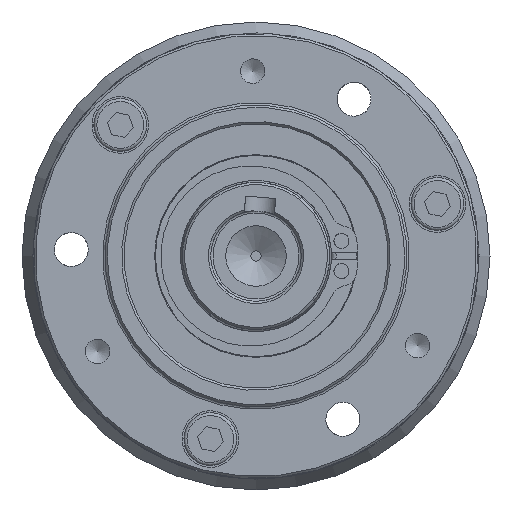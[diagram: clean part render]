
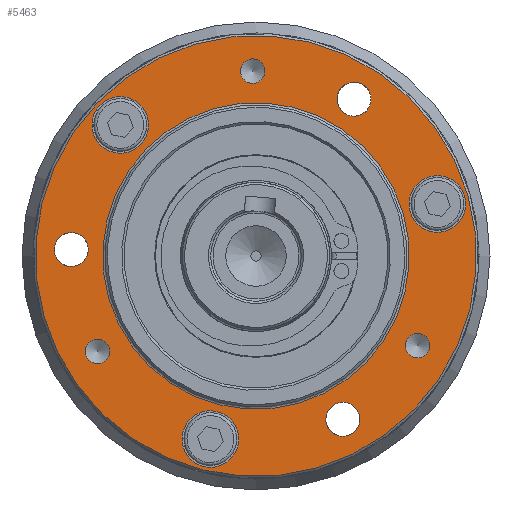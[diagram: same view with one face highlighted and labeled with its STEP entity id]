
A CAD part, left-side view. The second image highlights one B-rep face of the part: STEP entity #5463.
In plain terms, the highlighted planar face has unit normal (-1, 0, 0).
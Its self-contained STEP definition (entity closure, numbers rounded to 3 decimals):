
#942=PLANE('',#5905);
#1108=FACE_BOUND('',#1792,.T.);
#1109=FACE_BOUND('',#1793,.T.);
#1110=FACE_BOUND('',#1794,.T.);
#1111=FACE_BOUND('',#1795,.T.);
#1112=FACE_BOUND('',#1796,.T.);
#1113=FACE_BOUND('',#1797,.T.);
#1114=FACE_BOUND('',#1798,.T.);
#1115=FACE_BOUND('',#1799,.T.);
#1116=FACE_BOUND('',#1800,.T.);
#1117=FACE_BOUND('',#1801,.T.);
#1372=FACE_OUTER_BOUND('',#1791,.T.);
#1791=EDGE_LOOP('',(#4202));
#1792=EDGE_LOOP('',(#4203));
#1793=EDGE_LOOP('',(#4204));
#1794=EDGE_LOOP('',(#4205));
#1795=EDGE_LOOP('',(#4206));
#1796=EDGE_LOOP('',(#4207));
#1797=EDGE_LOOP('',(#4208));
#1798=EDGE_LOOP('',(#4209));
#1799=EDGE_LOOP('',(#4210));
#1800=EDGE_LOOP('',(#4211));
#1801=EDGE_LOOP('',(#4212));
#2062=CIRCLE('',#5703,2.25);
#2064=CIRCLE('',#5706,2.25);
#2066=CIRCLE('',#5709,2.25);
#2141=CIRCLE('',#5876,29.2);
#2142=CIRCLE('',#5878,1.621);
#2144=CIRCLE('',#5882,1.621);
#2146=CIRCLE('',#5886,1.621);
#2148=CIRCLE('',#5890,3.75);
#2151=CIRCLE('',#5895,3.75);
#2153=CIRCLE('',#5899,3.75);
#2157=CIRCLE('',#5906,20.3);
#2376=VERTEX_POINT('',#7888);
#2378=VERTEX_POINT('',#7893);
#2380=VERTEX_POINT('',#7898);
#2590=VERTEX_POINT('',#9138);
#2591=VERTEX_POINT('',#9141);
#2593=VERTEX_POINT('',#9147);
#2595=VERTEX_POINT('',#9153);
#2597=VERTEX_POINT('',#9159);
#2600=VERTEX_POINT('',#9167);
#2602=VERTEX_POINT('',#9173);
#2606=VERTEX_POINT('',#9184);
#2876=EDGE_CURVE('',#2376,#2376,#2062,.T.);
#2878=EDGE_CURVE('',#2378,#2378,#2064,.T.);
#2880=EDGE_CURVE('',#2380,#2380,#2066,.T.);
#3177=EDGE_CURVE('',#2590,#2590,#2141,.T.);
#3178=EDGE_CURVE('',#2591,#2591,#2142,.T.);
#3180=EDGE_CURVE('',#2593,#2593,#2144,.T.);
#3182=EDGE_CURVE('',#2595,#2595,#2146,.T.);
#3184=EDGE_CURVE('',#2597,#2597,#2148,.T.);
#3187=EDGE_CURVE('',#2600,#2600,#2151,.T.);
#3189=EDGE_CURVE('',#2602,#2602,#2153,.T.);
#3193=EDGE_CURVE('',#2606,#2606,#2157,.T.);
#4202=ORIENTED_EDGE('',*,*,#3177,.F.);
#4203=ORIENTED_EDGE('',*,*,#2880,.T.);
#4204=ORIENTED_EDGE('',*,*,#2878,.T.);
#4205=ORIENTED_EDGE('',*,*,#2876,.T.);
#4206=ORIENTED_EDGE('',*,*,#3178,.T.);
#4207=ORIENTED_EDGE('',*,*,#3180,.T.);
#4208=ORIENTED_EDGE('',*,*,#3182,.T.);
#4209=ORIENTED_EDGE('',*,*,#3184,.T.);
#4210=ORIENTED_EDGE('',*,*,#3187,.T.);
#4211=ORIENTED_EDGE('',*,*,#3189,.T.);
#4212=ORIENTED_EDGE('',*,*,#3193,.F.);
#5463=ADVANCED_FACE('',(#1372,#1108,#1109,#1110,#1111,#1112,#1113,#1114,
#1115,#1116,#1117),#942,.T.);
#5703=AXIS2_PLACEMENT_3D('',#7889,#6405,#6406);
#5706=AXIS2_PLACEMENT_3D('',#7894,#6411,#6412);
#5709=AXIS2_PLACEMENT_3D('',#7899,#6417,#6418);
#5876=AXIS2_PLACEMENT_3D('',#9139,#6901,#6902);
#5878=AXIS2_PLACEMENT_3D('',#9142,#6905,#6906);
#5882=AXIS2_PLACEMENT_3D('',#9148,#6913,#6914);
#5886=AXIS2_PLACEMENT_3D('',#9154,#6921,#6922);
#5890=AXIS2_PLACEMENT_3D('',#9160,#6929,#6930);
#5895=AXIS2_PLACEMENT_3D('',#9168,#6939,#6940);
#5899=AXIS2_PLACEMENT_3D('',#9174,#6947,#6948);
#5905=AXIS2_PLACEMENT_3D('',#9183,#6959,#6960);
#5906=AXIS2_PLACEMENT_3D('',#9185,#6961,#6962);
#6405=DIRECTION('center_axis',(1.,0.,0.));
#6406=DIRECTION('ref_axis',(0.,0.276,0.961));
#6411=DIRECTION('center_axis',(1.,0.,0.));
#6412=DIRECTION('ref_axis',(0.,0.276,0.961));
#6417=DIRECTION('center_axis',(1.,0.,0.));
#6418=DIRECTION('ref_axis',(0.,0.276,0.961));
#6901=DIRECTION('center_axis',(1.,0.,0.));
#6902=DIRECTION('ref_axis',(0.,-0.961,0.276));
#6905=DIRECTION('center_axis',(1.,0.,0.));
#6906=DIRECTION('ref_axis',(0.,0.276,0.961));
#6913=DIRECTION('center_axis',(1.,0.,0.));
#6914=DIRECTION('ref_axis',(0.,0.276,0.961));
#6921=DIRECTION('center_axis',(1.,0.,0.));
#6922=DIRECTION('ref_axis',(0.,0.276,0.961));
#6929=DIRECTION('center_axis',(1.,0.,0.));
#6930=DIRECTION('ref_axis',(0.,0.276,0.961));
#6939=DIRECTION('center_axis',(1.,0.,0.));
#6940=DIRECTION('ref_axis',(0.,0.276,0.961));
#6947=DIRECTION('center_axis',(1.,0.,0.));
#6948=DIRECTION('ref_axis',(0.,0.276,0.961));
#6959=DIRECTION('center_axis',(-1.,0.,0.));
#6960=DIRECTION('ref_axis',(0.,0.276,0.961));
#6961=DIRECTION('center_axis',(-1.,0.,0.));
#6962=DIRECTION('ref_axis',(0.,-0.961,0.276));
#7888=CARTESIAN_POINT('',(3.,23.865,-1.308));
#7889=CARTESIAN_POINT('Origin',(3.,24.485,0.855));
#7893=CARTESIAN_POINT('',(3.,-13.603,18.614));
#7894=CARTESIAN_POINT('Origin',(3.,-12.983,20.777));
#7898=CARTESIAN_POINT('',(3.,-12.122,-23.795));
#7899=CARTESIAN_POINT('Origin',(3.,-11.502,-21.632));
#9138=CARTESIAN_POINT('',(3.,28.069,-8.049));
#9139=CARTESIAN_POINT('Origin',(3.,0.,0.));
#9141=CARTESIAN_POINT('',(3.,-0.019,22.938));
#9142=CARTESIAN_POINT('Origin',(3.,0.428,24.496));
#9147=CARTESIAN_POINT('',(3.,20.554,-14.177));
#9148=CARTESIAN_POINT('Origin',(3.,21.001,-12.618));
#9153=CARTESIAN_POINT('',(3.,-21.875,-13.436));
#9154=CARTESIAN_POINT('Origin',(3.,-21.428,-11.878));
#9159=CARTESIAN_POINT('',(3.,16.95,13.762));
#9160=CARTESIAN_POINT('Origin',(3.,17.983,17.366));
#9167=CARTESIAN_POINT('',(3.,5.014,-27.862));
#9168=CARTESIAN_POINT('Origin',(3.,6.048,-24.257));
#9173=CARTESIAN_POINT('',(3.,-25.065,3.286));
#9174=CARTESIAN_POINT('Origin',(3.,-24.032,6.891));
#9183=CARTESIAN_POINT('Origin',(3.,23.791,-6.822));
#9184=CARTESIAN_POINT('',(3.,19.514,-5.595));
#9185=CARTESIAN_POINT('Origin',(3.,0.,0.));
